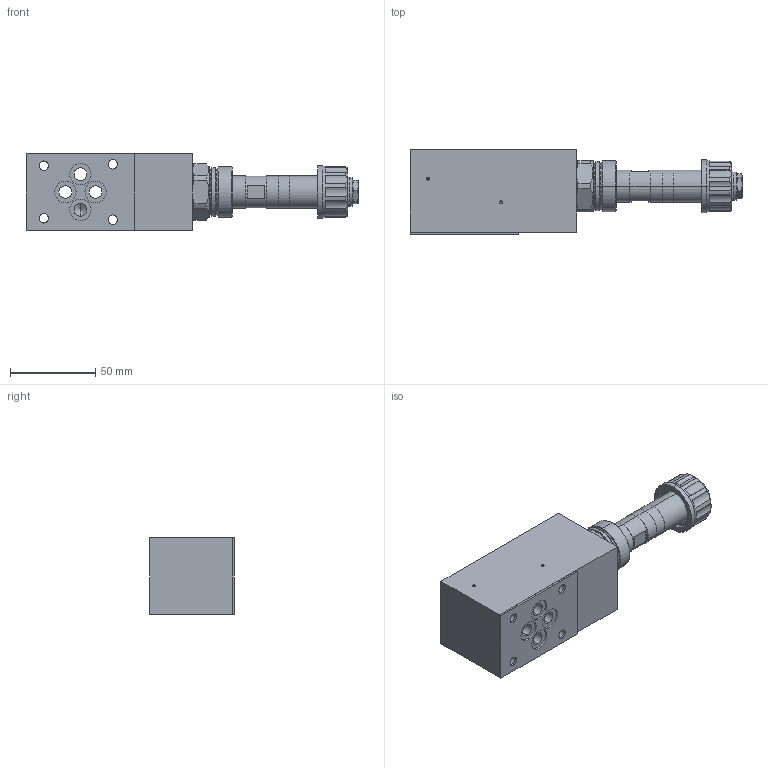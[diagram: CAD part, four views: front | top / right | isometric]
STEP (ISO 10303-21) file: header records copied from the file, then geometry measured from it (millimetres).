
FILE_DESCRIPTION (( 'STEP AP214' ), '1' );
FILE_NAME ('DNKPSA06-T.STEP', '2017-04-19T12:06:01', ( '' ), ( '' ), 'SwSTEP 2.0', 'SolidWorks 2016', '' );
FILE_SCHEMA (( 'AUTOMOTIVE_DESIGN' ));
Length unit declared in the file: millimetre
Products named in the file (1): DNKPSA06-T
Bounding box: 195.2 x 49.75 x 45 mm (x, y, z)
Volume: 245827.6 mm3; surface area: 47012 mm2
Topology: 3 solids, 6 shells, 442 faces, 1111 edges, 708 vertices
Faces by surface type: plane 201, cylinder 119, cone 83, bspline 25, torus 10, sphere 4
Entity records: 19804 total; most frequent: CARTESIAN_POINT 4313, ORIENTED_EDGE 2194, DIRECTION 2159, EDGE_CURVE 1097, AXIS2_PLACEMENT_3D 766, VERTEX_POINT 708, VECTOR 627, LINE 627
